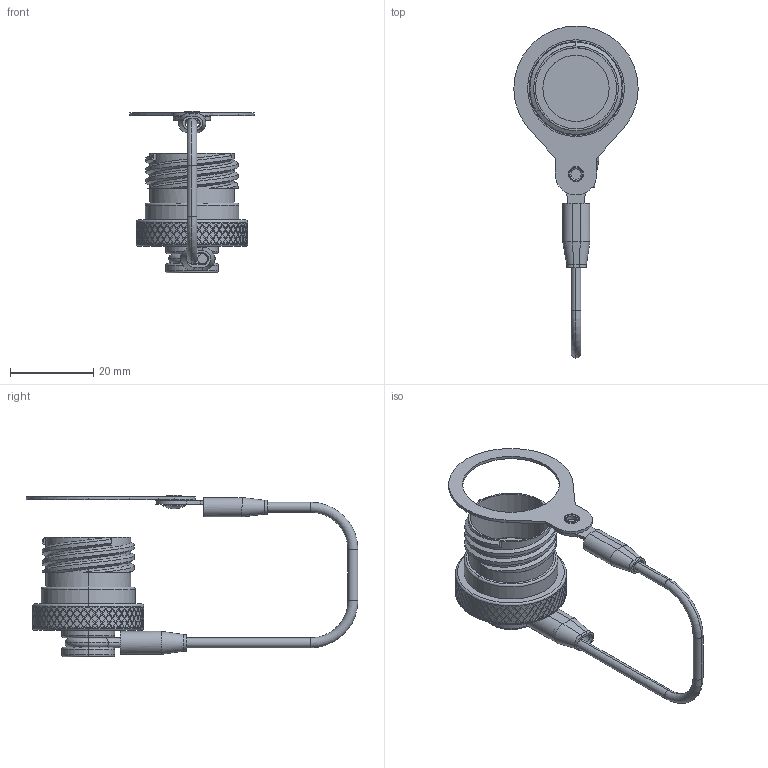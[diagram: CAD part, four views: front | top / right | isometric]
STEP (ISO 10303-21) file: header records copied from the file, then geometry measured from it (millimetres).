
FILE_DESCRIPTION (( 'STEP AP214' ), '1' );
FILE_NAME ('Q38DC-PRX-13-R0.STEP', '2026-04-22T18:35:12', ( '' ), ( '' ), 'SwSTEP 2.0', 'SolidWorks 2024', '' );
FILE_SCHEMA (( 'AUTOMOTIVE_DESIGN' ));
Length unit declared in the file: inch
Products named in the file (11): LN-06-07-13_Q38DC-PRX-13 (Assembled); SW-349_SW-349; Lanyard Assembly Q38_Q38DC-PRX-13 (Assembled); HEAT SHRINK_HS-125-625S; SW-348; SW-347; Q38DC-PRX-13-R0; HEAT SHRINK_HS-250X625_SW-348; Q38-XX29-P_13P; Q38-XX28-X_Q38-1328; SW-XRXX_SW-SR13
Assembly tree (10 placements, depth 3):
  Q38DC-PRX-13-R0
    Q38-XX28-X_Q38-1328
    Lanyard Assembly Q38_Q38DC-PRX-13 (Assembled)
      LN-06-07-13_Q38DC-PRX-13 (Assembled)
      SW-348
      HEAT SHRINK_HS-250X625_SW-348
      SW-347
      HEAT SHRINK_HS-125-625S
      SW-349_SW-349
      SW-XRXX_SW-SR13
    Q38-XX29-P_13P
Bounding box: 29.8 x 79.54 x 38.81 mm (x, y, z)
Volume: 6336.1 mm3; surface area: 8788.1 mm2
Topology: 9 solids, 9 shells, 1430 faces, 3427 edges, 2256 vertices
Faces by surface type: plane 1047, cylinder 332, torus 32, bspline 17, sphere 2
Entity records: 43488 total; most frequent: CARTESIAN_POINT 14748, ORIENTED_EDGE 6854, DIRECTION 4897, EDGE_CURVE 3427, VERTEX_POINT 2256, AXIS2_PLACEMENT_3D 1844, EDGE_LOOP 1685, ADVANCED_FACE 1430
